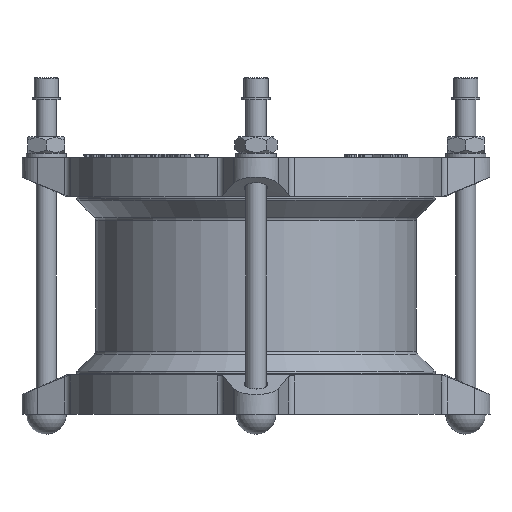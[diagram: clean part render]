
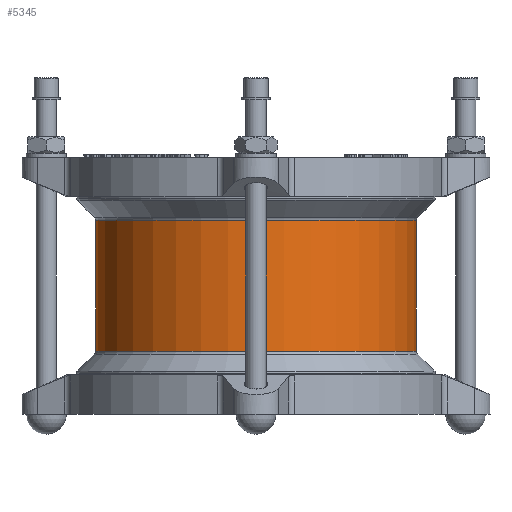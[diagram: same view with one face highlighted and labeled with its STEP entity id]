
A CAD part, front view. The second image highlights one B-rep face of the part: STEP entity #5345.
In plain terms, the highlighted cylindrical face has radius 96 mm (diameter 192 mm), a full revolution.
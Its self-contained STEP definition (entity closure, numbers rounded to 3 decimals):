
#5345=ADVANCED_FACE('',(#9895,#9897),#9899,.T.);
#9895=FACE_OUTER_BOUND('',#9896,.T.);
#9896=EDGE_LOOP('',(#14763));
#9897=FACE_OUTER_BOUND('',#9898,.T.);
#9898=EDGE_LOOP('',(#14764));
#9899=CYLINDRICAL_SURFACE('',#9900,96.);
#9900=AXIS2_PLACEMENT_3D('',#9901,#9902,#9903);
#9901=CARTESIAN_POINT('',(0.,0.,40.214));
#9902=DIRECTION('',(0.,0.,-1.));
#9903=DIRECTION('',(0.,1.,0.));
#14763=ORIENTED_EDGE('',*,*,#16847,.T.);
#14764=ORIENTED_EDGE('',*,*,#16848,.F.);
#16847=EDGE_CURVE('',#19669,#19669,#19670,.T.);
#16848=EDGE_CURVE('',#19671,#19671,#19672,.T.);
#19669=VERTEX_POINT('',#28488);
#19670=CIRCLE('',#28489,96.);
#19671=VERTEX_POINT('',#28493);
#19672=CIRCLE('',#28494,96.);
#28488=CARTESIAN_POINT('',(0.,96.,39.179));
#28489=AXIS2_PLACEMENT_3D('',#28490,#28491,#28492);
#28490=CARTESIAN_POINT('',(0.,0.,39.179));
#28491=DIRECTION('',(0.,0.,-1.));
#28492=DIRECTION('',(0.,1.,0.));
#28493=CARTESIAN_POINT('',(0.,96.,-39.179));
#28494=AXIS2_PLACEMENT_3D('',#28495,#28496,#28497);
#28495=CARTESIAN_POINT('',(0.,0.,-39.179));
#28496=DIRECTION('',(0.,0.,-1.));
#28497=DIRECTION('',(0.,1.,0.));
